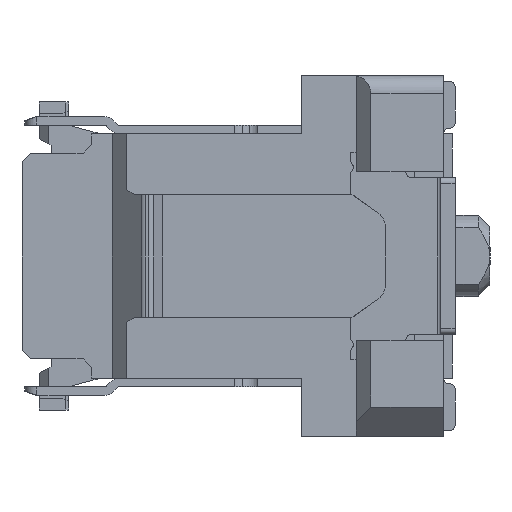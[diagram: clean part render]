
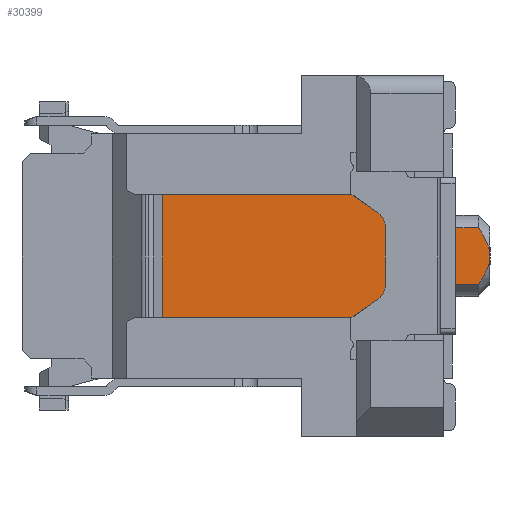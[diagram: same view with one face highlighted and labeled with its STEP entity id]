
A CAD part, left-side view. The second image highlights one B-rep face of the part: STEP entity #30399.
In plain terms, the highlighted planar face has unit normal (-1, 0, 0).
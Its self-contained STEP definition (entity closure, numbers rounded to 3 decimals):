
#307 = DIRECTION ( 'NONE',  ( 0., 1., 0. ) ) ;
#785 = CARTESIAN_POINT ( 'NONE',  ( -6.85, 0.2, 1.2 ) ) ;
#1195 = CARTESIAN_POINT ( 'NONE',  ( -6.85, 0.2, -0.49 ) ) ;
#1610 = DIRECTION ( 'NONE',  ( 0., 1., 0. ) ) ;
#5368 = VECTOR ( 'NONE', #53273, 1000. ) ;
#5514 = VECTOR ( 'NONE', #47024, 1000. ) ;
#5792 = CARTESIAN_POINT ( 'NONE',  ( -6.85, -0.4, 0.49 ) ) ;
#8012 = FACE_OUTER_BOUND ( 'NONE', #15812, .T. ) ;
#11039 = CARTESIAN_POINT ( 'NONE',  ( -6.85, 5.041, 1.05 ) ) ;
#12788 = B_SPLINE_CURVE_WITH_KNOTS ( 'NONE', 3,
 ( #5792, #56678, #31649, #90505, #40133, #99036 ),
 .UNSPECIFIED., .F., .F.,
 ( 4, 2, 4 ),
 ( 0.002, 0.002, 0.003 ),
 .UNSPECIFIED. ) ;
#12866 = VECTOR ( 'NONE', #63874, 1000. ) ;
#13383 = CARTESIAN_POINT ( 'NONE',  ( -6.85, -0.6, -0.089 ) ) ;
#13419 = CARTESIAN_POINT ( 'NONE',  ( -6.85, 5.041, -1.724 ) ) ;
#14166 = VERTEX_POINT ( 'NONE', #17882 ) ;
#15246 = VERTEX_POINT ( 'NONE', #11039 ) ;
#15812 = EDGE_LOOP ( 'NONE', ( #36765, #34137, #76244, #99942, #46032, #108053, #60725, #43003, #51227 ) ) ;
#16341 = EDGE_CURVE ( 'NONE', #100461, #65952, #108575, .T. ) ;
#16422 = CARTESIAN_POINT ( 'NONE',  ( -6.85, -0.6, 0. ) ) ;
#17882 = CARTESIAN_POINT ( 'NONE',  ( -6.85, -0.4, 0.49 ) ) ;
#21878 = CARTESIAN_POINT ( 'NONE',  ( -6.85, -0.5, -0.34 ) ) ;
#22382 = CARTESIAN_POINT ( 'NONE',  ( -6.85, 5.041, -1.05 ) ) ;
#27403 = LINE ( 'NONE', #82323, #47184 ) ;
#30335 = CARTESIAN_POINT ( 'NONE',  ( -6.85, -0.4, -0.49 ) ) ;
#30399 = ADVANCED_FACE ( 'NONE', ( #8012 ), #57093, .T. ) ;
#30703 = EDGE_CURVE ( 'NONE', #72987, #49458, #89687, .T. ) ;
#31649 = CARTESIAN_POINT ( 'NONE',  ( -6.85, -0.499, 0.342 ) ) ;
#31958 = DIRECTION ( 'NONE',  ( 0., -1., 0. ) ) ;
#33979 = EDGE_CURVE ( 'NONE', #55359, #104175, #102855, .T. ) ;
#34109 = VECTOR ( 'NONE', #1610, 1000. ) ;
#34137 = ORIENTED_EDGE ( 'NONE', *, *, #75686, .T. ) ;
#36765 = ORIENTED_EDGE ( 'NONE', *, *, #104734, .F. ) ;
#36833 = VECTOR ( 'NONE', #307, 1000. ) ;
#40133 = CARTESIAN_POINT ( 'NONE',  ( -6.85, -0.6, 0.09 ) ) ;
#40535 = CARTESIAN_POINT ( 'NONE',  ( -6.85, -0.6, -0.49 ) ) ;
#42253 = EDGE_CURVE ( 'NONE', #104175, #49458, #98654, .T. ) ;
#43003 = ORIENTED_EDGE ( 'NONE', *, *, #16341, .T. ) ;
#45785 = EDGE_CURVE ( 'NONE', #14166, #100461, #101389, .T. ) ;
#46032 = ORIENTED_EDGE ( 'NONE', *, *, #33979, .F. ) ;
#46901 = CARTESIAN_POINT ( 'NONE',  ( -6.85, -0.574, -0.178 ) ) ;
#47024 = DIRECTION ( 'NONE',  ( 0., -1., 0. ) ) ;
#47184 = VECTOR ( 'NONE', #31958, 1000. ) ;
#48920 = DIRECTION ( 'NONE',  ( 0., 0., 1. ) ) ;
#49458 = VERTEX_POINT ( 'NONE', #1195 ) ;
#50820 = CARTESIAN_POINT ( 'NONE',  ( -6.85, -0.6, 0.49 ) ) ;
#51158 = CARTESIAN_POINT ( 'NONE',  ( -6.85, 0.2, 0.49 ) ) ;
#51227 = ORIENTED_EDGE ( 'NONE', *, *, #80048, .F. ) ;
#53273 = DIRECTION ( 'NONE',  ( 0., 0., 1. ) ) ;
#54532 = AXIS2_PLACEMENT_3D ( 'NONE', #40535, #99429, #48920 ) ;
#55022 = LINE ( 'NONE', #13419, #12866 ) ;
#55359 = VERTEX_POINT ( 'NONE', #16422 ) ;
#56678 = CARTESIAN_POINT ( 'NONE',  ( -6.85, -0.451, 0.417 ) ) ;
#57093 = PLANE ( 'NONE',  #54532 ) ;
#59498 = EDGE_CURVE ( 'NONE', #14166, #55359, #12788, .T. ) ;
#59778 = DIRECTION ( 'NONE',  ( 0., 0., 1. ) ) ;
#60725 = ORIENTED_EDGE ( 'NONE', *, *, #45785, .T. ) ;
#63874 = DIRECTION ( 'NONE',  ( 0., 0., 1. ) ) ;
#65952 = VERTEX_POINT ( 'NONE', #97433 ) ;
#66170 = CARTESIAN_POINT ( 'NONE',  ( -6.85, 0.2, -1.05 ) ) ;
#69115 = CARTESIAN_POINT ( 'NONE',  ( -6.85, -0.6, -0.49 ) ) ;
#72082 = CARTESIAN_POINT ( 'NONE',  ( -6.85, 7.45, -1.05 ) ) ;
#72333 = CARTESIAN_POINT ( 'NONE',  ( -6.85, -0.6, 0. ) ) ;
#72768 = LINE ( 'NONE', #72082, #5514 ) ;
#72987 = VERTEX_POINT ( 'NONE', #66170 ) ;
#75686 = EDGE_CURVE ( 'NONE', #77392, #72987, #72768, .T. ) ;
#76244 = ORIENTED_EDGE ( 'NONE', *, *, #30703, .T. ) ;
#77392 = VERTEX_POINT ( 'NONE', #22382 ) ;
#80048 = EDGE_CURVE ( 'NONE', #15246, #65952, #27403, .T. ) ;
#80768 = CARTESIAN_POINT ( 'NONE',  ( -6.85, -0.451, -0.417 ) ) ;
#82323 = CARTESIAN_POINT ( 'NONE',  ( -6.85, 7.45, 1.05 ) ) ;
#86064 = VECTOR ( 'NONE', #59778, 1000. ) ;
#89687 = LINE ( 'NONE', #95290, #5368 ) ;
#89743 = CARTESIAN_POINT ( 'NONE',  ( -6.85, -0.4, -0.49 ) ) ;
#90505 = CARTESIAN_POINT ( 'NONE',  ( -6.85, -0.574, 0.179 ) ) ;
#95290 = CARTESIAN_POINT ( 'NONE',  ( -6.85, 0.2, 1.2 ) ) ;
#97433 = CARTESIAN_POINT ( 'NONE',  ( -6.85, 0.2, 1.05 ) ) ;
#98654 = LINE ( 'NONE', #69115, #34109 ) ;
#99036 = CARTESIAN_POINT ( 'NONE',  ( -6.85, -0.6, 0. ) ) ;
#99429 = DIRECTION ( 'NONE',  ( -1., 0., 0. ) ) ;
#99942 = ORIENTED_EDGE ( 'NONE', *, *, #42253, .F. ) ;
#100461 = VERTEX_POINT ( 'NONE', #51158 ) ;
#101389 = LINE ( 'NONE', #50820, #36833 ) ;
#102855 = B_SPLINE_CURVE_WITH_KNOTS ( 'NONE', 3,
 ( #72333, #13383, #46901, #21878, #80768, #30335 ),
 .UNSPECIFIED., .F., .F.,
 ( 4, 2, 4 ),
 ( 0.003, 0.003, 0.003 ),
 .UNSPECIFIED. ) ;
#104175 = VERTEX_POINT ( 'NONE', #89743 ) ;
#104734 = EDGE_CURVE ( 'NONE', #77392, #15246, #55022, .T. ) ;
#108053 = ORIENTED_EDGE ( 'NONE', *, *, #59498, .F. ) ;
#108575 = LINE ( 'NONE', #785, #86064 ) ;
